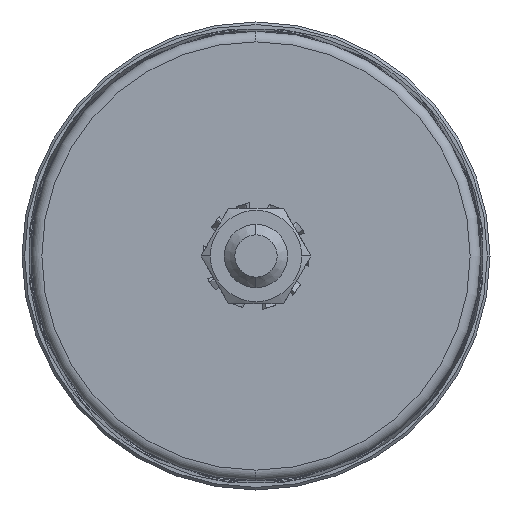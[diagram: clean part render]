
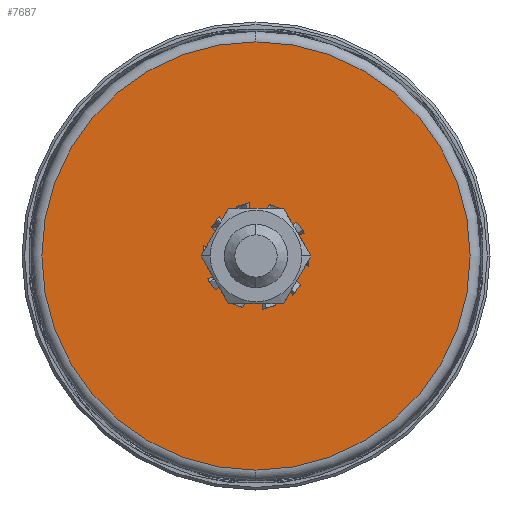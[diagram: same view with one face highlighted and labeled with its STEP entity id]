
A CAD part, front view. The second image highlights one B-rep face of the part: STEP entity #7687.
In plain terms, the highlighted planar face has unit normal (0, -1, 0).
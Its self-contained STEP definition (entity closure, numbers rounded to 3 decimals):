
#60 = ORIENTED_EDGE ( 'NONE', *, *, #13873, .T. ) ;
#618 = VERTEX_POINT ( 'NONE', #2433 ) ;
#1017 = DIRECTION ( 'NONE',  ( 0., -1., 0. ) ) ;
#1245 = CIRCLE ( 'NONE', #10084, 40.5 ) ;
#1264 = FACE_OUTER_BOUND ( 'NONE', #4757, .T. ) ;
#2235 = FACE_BOUND ( 'NONE', #13494, .T. ) ;
#2244 = AXIS2_PLACEMENT_3D ( 'NONE', #2723, #13835, #11224 ) ;
#2342 = DIRECTION ( 'NONE',  ( 0., 0., -1. ) ) ;
#2433 = CARTESIAN_POINT ( 'NONE',  ( 0., 0., -40.5 ) ) ;
#2723 = CARTESIAN_POINT ( 'NONE',  ( 0., 0., 0. ) ) ;
#2750 = VERTEX_POINT ( 'NONE', #9323 ) ;
#3024 = CARTESIAN_POINT ( 'NONE',  ( 0., 0., 0. ) ) ;
#3190 = DIRECTION ( 'NONE',  ( 0., 0., -1. ) ) ;
#3940 = CIRCLE ( 'NONE', #12331, 40.5 ) ;
#4309 = AXIS2_PLACEMENT_3D ( 'NONE', #5656, #15498, #3190 ) ;
#4757 = EDGE_LOOP ( 'NONE', ( #12856, #7521 ) ) ;
#5287 = CIRCLE ( 'NONE', #2244, 8. ) ;
#5337 = VERTEX_POINT ( 'NONE', #10132 ) ;
#5599 = DIRECTION ( 'NONE',  ( 0., -1., 0. ) ) ;
#5656 = CARTESIAN_POINT ( 'NONE',  ( 0., 0., 0. ) ) ;
#6000 = ORIENTED_EDGE ( 'NONE', *, *, #6297, .T. ) ;
#6069 = DIRECTION ( 'NONE',  ( 0., -1., 0. ) ) ;
#6297 = EDGE_CURVE ( 'NONE', #12729, #2750, #15521, .T. ) ;
#7373 = DIRECTION ( 'NONE',  ( 0., 0., -1. ) ) ;
#7422 = PLANE ( 'NONE',  #11965 ) ;
#7521 = ORIENTED_EDGE ( 'NONE', *, *, #13799, .T. ) ;
#7687 = ADVANCED_FACE ( 'NONE', ( #2235, #1264 ), #7422, .T. ) ;
#8471 = CARTESIAN_POINT ( 'NONE',  ( 0., 0., 0. ) ) ;
#8728 = CARTESIAN_POINT ( 'NONE',  ( 6., 0., 0. ) ) ;
#9323 = CARTESIAN_POINT ( 'NONE',  ( 0., 0., 8. ) ) ;
#10084 = AXIS2_PLACEMENT_3D ( 'NONE', #3024, #5599, #15445 ) ;
#10132 = CARTESIAN_POINT ( 'NONE',  ( 0., 0., 40.5 ) ) ;
#11224 = DIRECTION ( 'NONE',  ( 0., 0., -1. ) ) ;
#11965 = AXIS2_PLACEMENT_3D ( 'NONE', #8728, #6069, #7373 ) ;
#12057 = CARTESIAN_POINT ( 'NONE',  ( 0., 0., -8. ) ) ;
#12331 = AXIS2_PLACEMENT_3D ( 'NONE', #8471, #1017, #2342 ) ;
#12729 = VERTEX_POINT ( 'NONE', #12057 ) ;
#12856 = ORIENTED_EDGE ( 'NONE', *, *, #15289, .T. ) ;
#13494 = EDGE_LOOP ( 'NONE', ( #6000, #60 ) ) ;
#13799 = EDGE_CURVE ( 'NONE', #5337, #618, #3940, .T. ) ;
#13835 = DIRECTION ( 'NONE',  ( 0., 1., 0. ) ) ;
#13873 = EDGE_CURVE ( 'NONE', #2750, #12729, #5287, .T. ) ;
#15289 = EDGE_CURVE ( 'NONE', #618, #5337, #1245, .T. ) ;
#15445 = DIRECTION ( 'NONE',  ( 0., 0., -1. ) ) ;
#15498 = DIRECTION ( 'NONE',  ( 0., 1., 0. ) ) ;
#15521 = CIRCLE ( 'NONE', #4309, 8. ) ;
